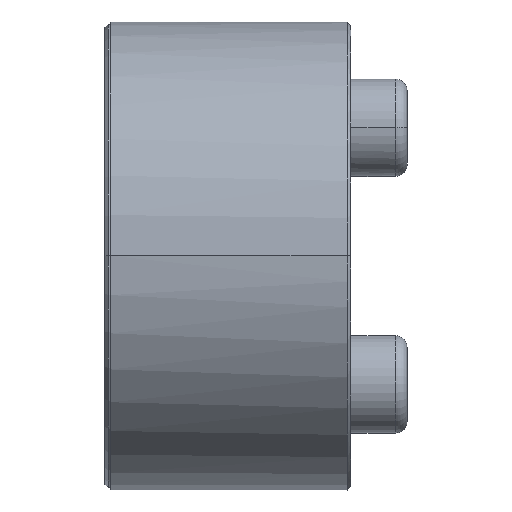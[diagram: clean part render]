
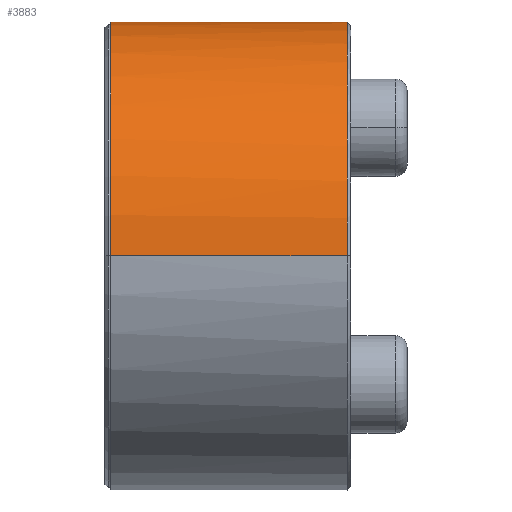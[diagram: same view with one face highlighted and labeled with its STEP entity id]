
A CAD part, top view. The second image highlights one B-rep face of the part: STEP entity #3883.
In plain terms, the highlighted cylindrical face has radius 20 mm (diameter 40 mm), a partial arc.
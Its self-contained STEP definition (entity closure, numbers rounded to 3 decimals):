
#165 = CARTESIAN_POINT ( 'NONE',  ( 20.686, 5.185, 19.36 ) ) ;
#175 = ORIENTED_EDGE ( 'NONE', *, *, #2742, .F. ) ;
#225 = CARTESIAN_POINT ( 'NONE',  ( 20.686, 2.617, 19.871 ) ) ;
#245 = CARTESIAN_POINT ( 'NONE',  ( 20.686, 19.871, -2.618 ) ) ;
#550 = CARTESIAN_POINT ( 'NONE',  ( 20.686, 1.308, -20. ) ) ;
#568 = CARTESIAN_POINT ( 'NONE',  ( 20.686, 15.902, -12.2 ) ) ;
#741 = DIRECTION ( 'NONE',  ( 0., 0., 1. ) ) ;
#842 = CARTESIAN_POINT ( 'NONE',  ( 20.686, 6.444, 18.979 ) ) ;
#865 = CARTESIAN_POINT ( 'NONE',  ( 20.686, 2.617, -19.871 ) ) ;
#886 = CARTESIAN_POINT ( 'NONE',  ( 20.686, 12.199, 15.902 ) ) ;
#913 = CARTESIAN_POINT ( 'NONE',  ( 20.686, 15.068, 13.217 ) ) ;
#932 = CARTESIAN_POINT ( 'NONE',  ( 20.686, 15.068, -13.217 ) ) ;
#971 = VERTEX_POINT ( 'NONE', #1583 ) ;
#1018 = B_SPLINE_CURVE_WITH_KNOTS ( 'NONE', 3,
 ( #1881, #2564, #225, #165, #842, #2906, #4246, #886, #2611, #913, #1551, #3264, #4265, #1215, #3624, #2526, #1900, #1235, #245, #3937, #1262, #2924, #1839, #568, #932, #3223, #1592, #1923, #2235, #3601, #3535, #865, #550, #1570 ),
 .UNSPECIFIED., .F., .F.,
 ( 4, 2, 2, 2, 2, 2, 2, 2, 2, 2, 2, 2, 2, 2, 2, 2, 4 ),
 ( 0.246, 0.278, 0.309, 0.341, 0.373, 0.405, 0.436, 0.468, 0.5, 0.532, 0.564, 0.595, 0.627, 0.659, 0.691, 0.722, 0.754 ),
 .UNSPECIFIED. ) ;
#1029 = DIRECTION ( 'NONE',  ( -1., 0., 0. ) ) ;
#1034 = CARTESIAN_POINT ( 'NONE',  ( 20.686, -0.001, -20. ) ) ;
#1079 = CYLINDRICAL_SURFACE ( 'NONE', #2843, 20. ) ;
#1080 = EDGE_LOOP ( 'NONE', ( #175, #2371, #4051, #3638 ) ) ;
#1215 = CARTESIAN_POINT ( 'NONE',  ( 20.686, 18.978, 6.444 ) ) ;
#1235 = CARTESIAN_POINT ( 'NONE',  ( 20.686, 20., -1.309 ) ) ;
#1262 = CARTESIAN_POINT ( 'NONE',  ( 20.686, 18.978, -6.444 ) ) ;
#1276 = CARTESIAN_POINT ( 'NONE',  ( 0.486, 0., 20. ) ) ;
#1277 = LINE ( 'NONE', #3994, #4163 ) ;
#1491 = DIRECTION ( 'NONE',  ( 1., 0., 0. ) ) ;
#1544 = EDGE_CURVE ( 'NONE', #971, #4232, #4325, .T. ) ;
#1551 = CARTESIAN_POINT ( 'NONE',  ( 20.686, 15.902, 12.2 ) ) ;
#1570 = CARTESIAN_POINT ( 'NONE',  ( 20.686, -0.001, -20. ) ) ;
#1583 = CARTESIAN_POINT ( 'NONE',  ( 0.486, 0., 20. ) ) ;
#1592 = CARTESIAN_POINT ( 'NONE',  ( 20.686, 12.199, -15.902 ) ) ;
#1716 = AXIS2_PLACEMENT_3D ( 'NONE', #1973, #1029, #2373 ) ;
#1825 = VECTOR ( 'NONE', #2693, 1000. ) ;
#1839 = CARTESIAN_POINT ( 'NONE',  ( 20.686, 17.357, -10.023 ) ) ;
#1881 = CARTESIAN_POINT ( 'NONE',  ( 20.686, -0.001, 20. ) ) ;
#1900 = CARTESIAN_POINT ( 'NONE',  ( 20.686, 20., 1.309 ) ) ;
#1923 = CARTESIAN_POINT ( 'NONE',  ( 20.686, 10.023, -17.357 ) ) ;
#1973 = CARTESIAN_POINT ( 'NONE',  ( 0.486, 0., 0. ) ) ;
#2095 = EDGE_CURVE ( 'NONE', #4232, #3840, #1018, .T. ) ;
#2235 = CARTESIAN_POINT ( 'NONE',  ( 20.686, 8.863, -17.977 ) ) ;
#2371 = ORIENTED_EDGE ( 'NONE', *, *, #4260, .F. ) ;
#2373 = DIRECTION ( 'NONE',  ( 0., -0.999, 0.05 ) ) ;
#2491 = FACE_OUTER_BOUND ( 'NONE', #1080, .T. ) ;
#2526 = CARTESIAN_POINT ( 'NONE',  ( 20.686, 19.871, 2.618 ) ) ;
#2564 = CARTESIAN_POINT ( 'NONE',  ( 20.686, 1.308, 20. ) ) ;
#2611 = CARTESIAN_POINT ( 'NONE',  ( 20.686, 13.216, 15.068 ) ) ;
#2693 = DIRECTION ( 'NONE',  ( 1., 0., 0. ) ) ;
#2742 = EDGE_CURVE ( 'NONE', #2784, #3840, #1277, .T. ) ;
#2784 = VERTEX_POINT ( 'NONE', #3869 ) ;
#2843 = AXIS2_PLACEMENT_3D ( 'NONE', #3463, #1491, #741 ) ;
#2906 = CARTESIAN_POINT ( 'NONE',  ( 20.686, 8.863, 17.977 ) ) ;
#2924 = CARTESIAN_POINT ( 'NONE',  ( 20.686, 17.977, -8.863 ) ) ;
#2984 = CARTESIAN_POINT ( 'NONE',  ( 20.686, -0.001, 20. ) ) ;
#3223 = CARTESIAN_POINT ( 'NONE',  ( 20.686, 13.216, -15.068 ) ) ;
#3264 = CARTESIAN_POINT ( 'NONE',  ( 20.686, 17.357, 10.023 ) ) ;
#3463 = CARTESIAN_POINT ( 'NONE',  ( 0.486, 0., 0. ) ) ;
#3535 = CARTESIAN_POINT ( 'NONE',  ( 20.686, 5.185, -19.36 ) ) ;
#3601 = CARTESIAN_POINT ( 'NONE',  ( 20.686, 6.444, -18.979 ) ) ;
#3624 = CARTESIAN_POINT ( 'NONE',  ( 20.686, 19.36, 5.186 ) ) ;
#3638 = ORIENTED_EDGE ( 'NONE', *, *, #2095, .T. ) ;
#3840 = VERTEX_POINT ( 'NONE', #1034 ) ;
#3869 = CARTESIAN_POINT ( 'NONE',  ( 0.486, 0., -20. ) ) ;
#3883 = ADVANCED_FACE ( 'NONE', ( #2491 ), #1079, .T. ) ;
#3937 = CARTESIAN_POINT ( 'NONE',  ( 20.686, 19.36, -5.186 ) ) ;
#3994 = CARTESIAN_POINT ( 'NONE',  ( 0.486, 0., -20. ) ) ;
#4051 = ORIENTED_EDGE ( 'NONE', *, *, #1544, .T. ) ;
#4082 = DIRECTION ( 'NONE',  ( 1., 0., 0. ) ) ;
#4129 = CIRCLE ( 'NONE', #1716, 20. ) ;
#4163 = VECTOR ( 'NONE', #4082, 1000. ) ;
#4232 = VERTEX_POINT ( 'NONE', #2984 ) ;
#4246 = CARTESIAN_POINT ( 'NONE',  ( 20.686, 10.023, 17.357 ) ) ;
#4260 = EDGE_CURVE ( 'NONE', #971, #2784, #4129, .T. ) ;
#4265 = CARTESIAN_POINT ( 'NONE',  ( 20.686, 17.977, 8.863 ) ) ;
#4325 = LINE ( 'NONE', #1276, #1825 ) ;
